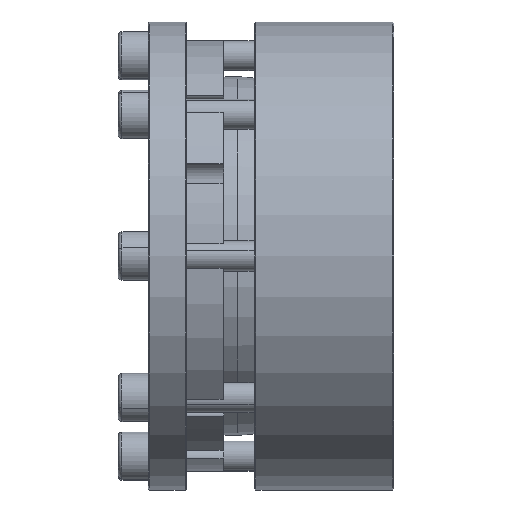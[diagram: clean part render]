
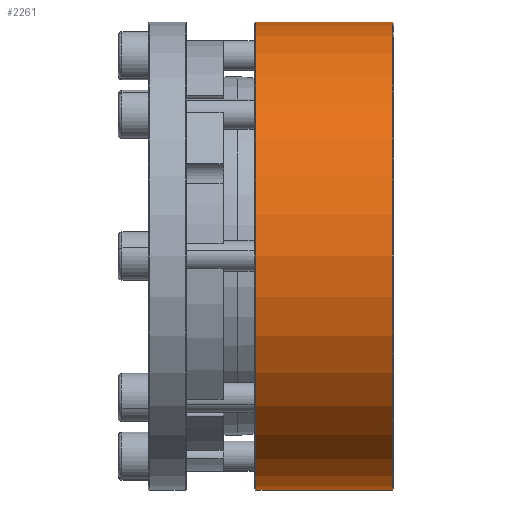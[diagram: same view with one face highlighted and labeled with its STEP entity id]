
A CAD part, front view. The second image highlights one B-rep face of the part: STEP entity #2261.
In plain terms, the highlighted cylindrical face has radius 77.425 mm (diameter 154.85 mm), a partial arc.
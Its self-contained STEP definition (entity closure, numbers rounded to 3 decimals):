
#35 = DIRECTION ( 'NONE',  ( 0., 0., -1. ) ) ;
#105 = EDGE_CURVE ( 'NONE', #198, #3481, #9622, .T. ) ;
#198 = VERTEX_POINT ( 'NONE', #7234 ) ;
#290 = ORIENTED_EDGE ( 'NONE', *, *, #1930, .T. ) ;
#695 = AXIS2_PLACEMENT_3D ( 'NONE', #8086, #7303, #3631 ) ;
#818 = CARTESIAN_POINT ( 'NONE',  ( -70.181, 26.04, 0. ) ) ;
#960 = EDGE_LOOP ( 'NONE', ( #2941, #3021, #290, #8232 ) ) ;
#1416 = DIRECTION ( 'NONE',  ( -1., 0., 0. ) ) ;
#1469 = AXIS2_PLACEMENT_3D ( 'NONE', #818, #6791, #35 ) ;
#1930 = EDGE_CURVE ( 'NONE', #8663, #5427, #3641, .T. ) ;
#1985 = EDGE_CURVE ( 'NONE', #5427, #3481, #5385, .T. ) ;
#2039 = DIRECTION ( 'NONE',  ( -1., 0., 0. ) ) ;
#2261 = ADVANCED_FACE ( 'NONE', ( #5880 ), #8085, .T. ) ;
#2898 = CARTESIAN_POINT ( 'NONE',  ( -70.581, 26.04, -77.425 ) ) ;
#2941 = ORIENTED_EDGE ( 'NONE', *, *, #105, .F. ) ;
#2997 = AXIS2_PLACEMENT_3D ( 'NONE', #9600, #2039, #4276 ) ;
#3021 = ORIENTED_EDGE ( 'NONE', *, *, #3669, .T. ) ;
#3481 = VERTEX_POINT ( 'NONE', #4441 ) ;
#3606 = DIRECTION ( 'NONE',  ( -1., 0., 0. ) ) ;
#3631 = DIRECTION ( 'NONE',  ( 0., 0., 1. ) ) ;
#3641 = LINE ( 'NONE', #8151, #5558 ) ;
#3669 = EDGE_CURVE ( 'NONE', #198, #8663, #8988, .T. ) ;
#4145 = CARTESIAN_POINT ( 'NONE',  ( -24.981, 26.04, 77.425 ) ) ;
#4276 = DIRECTION ( 'NONE',  ( 0., 0., 1. ) ) ;
#4441 = CARTESIAN_POINT ( 'NONE',  ( -70.181, 26.04, -77.425 ) ) ;
#5385 = CIRCLE ( 'NONE', #1469, 77.425 ) ;
#5427 = VERTEX_POINT ( 'NONE', #7643 ) ;
#5558 = VECTOR ( 'NONE', #1416, 1000. ) ;
#5880 = FACE_OUTER_BOUND ( 'NONE', #960, .T. ) ;
#6791 = DIRECTION ( 'NONE',  ( 1., 0., 0. ) ) ;
#7234 = CARTESIAN_POINT ( 'NONE',  ( -24.981, 26.04, -77.425 ) ) ;
#7303 = DIRECTION ( 'NONE',  ( -1., 0., 0. ) ) ;
#7643 = CARTESIAN_POINT ( 'NONE',  ( -70.181, 26.04, 77.425 ) ) ;
#8085 = CYLINDRICAL_SURFACE ( 'NONE', #2997, 77.425 ) ;
#8086 = CARTESIAN_POINT ( 'NONE',  ( -24.981, 26.04, 0. ) ) ;
#8151 = CARTESIAN_POINT ( 'NONE',  ( -70.581, 26.04, 77.425 ) ) ;
#8232 = ORIENTED_EDGE ( 'NONE', *, *, #1985, .T. ) ;
#8663 = VERTEX_POINT ( 'NONE', #4145 ) ;
#8754 = VECTOR ( 'NONE', #3606, 1000. ) ;
#8988 = CIRCLE ( 'NONE', #695, 77.425 ) ;
#9600 = CARTESIAN_POINT ( 'NONE',  ( -70.581, 26.04, 0. ) ) ;
#9622 = LINE ( 'NONE', #2898, #8754 ) ;
